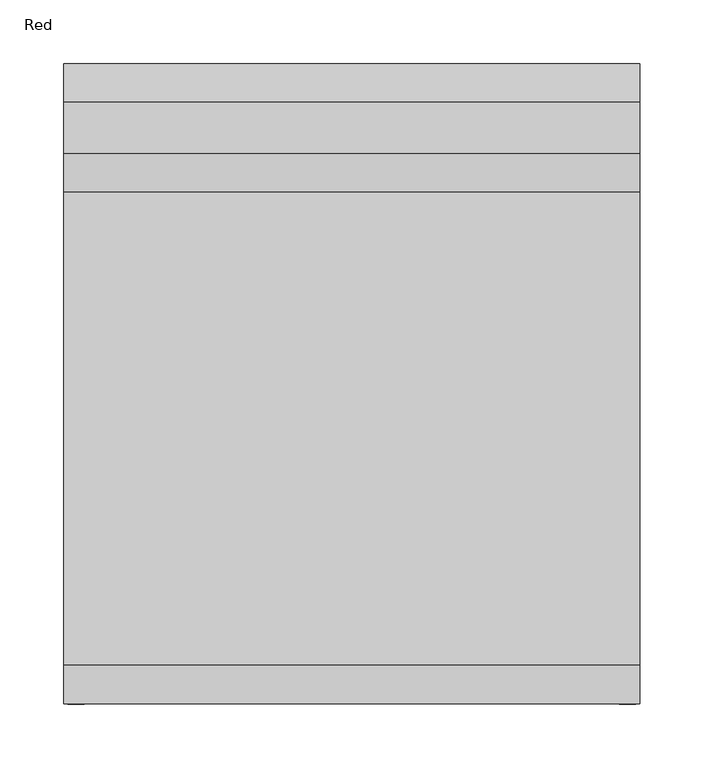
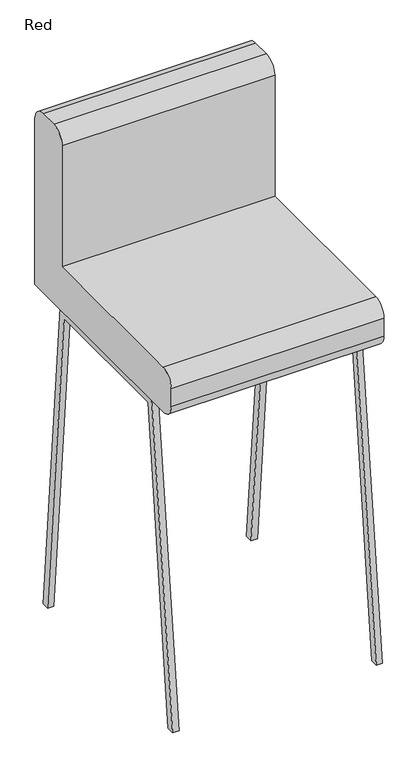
"""IFC4 building model written with IfcOpenShell, lengths in millimetres: furniture geometry, TN.RES.Chair05 : Red."""

from ifc_helpers import new_model, si_unit, point, frame, frame_2d, origin, place, context, project, spatial, polyline, circle_curve, trimmed, segment, composite_curve, outline, extrude, source, transform, mapped, element, save


def red_3fb05847(model_context):
    return source(origin(), model_context, "Body", "SweptSolid", [
        extrude(outline(polyline([(-250.0, 0.0), (-173.2433756, 700.0), (161.7566244, 700.0), (225.0, 0.0), (208.8427588, 0.0), (147.8480366, 684.0), (-159.741415, 684.0), (-233.768915, 0.0), (-250.0, 0.0)])), frame((-222.0, 0.0, 0.0), z_axis=(1.0, 0.0, 0.0), x_axis=(0.0, 1.0, 0.0)), (0.0, 0.0, 1.0), 13.0),
        extrude(outline(polyline([(161.7566244, 700.0), (225.0, 0.0), (208.8427588, 0.0), (147.8480366, 684.0), (-159.741415, 684.0), (-233.768915, 0.0), (-250.0, 0.0), (-173.2433756, 700.0), (161.7566244, 700.0)])), frame((209.0, 0.0, 0.0), z_axis=(1.0, 0.0, 0.0), x_axis=(0.0, 1.0, 0.0)), (0.0, 0.0, 1.0), 13.0),
        extrude(outline(composite_curve([segment(trimmed(circle_curve(frame_2d((-220.0, 730.0)), 30.0), [point((-220.0, 700.0))], [point((-250.0, 730.0))], False, "CARTESIAN"), True, "CONTINUOUS"), segment(polyline([(-250.0, 730.0), (-250.0, 770.0)]), True, "CONTINUOUS"), segment(trimmed(circle_curve(frame_2d((-220.0, 770.0)), 30.0), [point((-250.0, 770.0))], [point((-220.0, 800.0))], False, "CARTESIAN"), True, "CONTINUOUS"), segment(polyline([(-220.0, 800.0), (150.0, 800.0), (150.0, 1070.0)]), True, "CONTINUOUS"), segment(trimmed(circle_curve(frame_2d((180.0, 1070.0)), 30.0), [point((150.0, 1070.0))], [point((180.0, 1100.0))], False, "CARTESIAN"), True, "CONTINUOUS"), segment(polyline([(180.0, 1100.0), (220.0, 1100.0)]), True, "CONTINUOUS"), segment(trimmed(circle_curve(frame_2d((220.0, 1070.0)), 30.0), [point((220.0, 1100.0))], [point((250.0, 1070.0))], False, "CARTESIAN"), True, "CONTINUOUS"), segment(polyline([(250.0, 1070.0), (250.0, 700.0), (-220.0, 700.0)]), True, "CONTINUOUS")], self_intersect=False)), frame((-225.0, 0.0, 0.0), z_axis=(1.0, 0.0, 0.0), x_axis=(0.0, 1.0, 0.0)), (0.0, 0.0, 1.0), 450.0),
    ])


if __name__ == "__main__":
    model = new_model("IFC4")
    model_context = context("Model", 3, world=origin())
    ifc_project = project(units=[si_unit("LENGTHUNIT", "METRE", prefix="MILLI")], contexts=[model_context])
    site = spatial("IfcSite", under=ifc_project)
    building = spatial("IfcBuilding", under=site)
    placement = place(None, origin())
    red_shape = red_3fb05847(model_context)
    element("IfcFurniture", 1, ObjectType="TN.RES.Chair05 : Red", at=placement, inside=building, context=model_context, shape_type="MappedRepresentation", body=[
        mapped(red_shape, transform((0.0, 0.0, 0.0), x_axis=(1.0, 0.0, 0.0), y_axis=(0.0, 1.0, 0.0), z_axis=(0.0, 0.0, 1.0))),
    ])
    save(model, "model.ifc")
